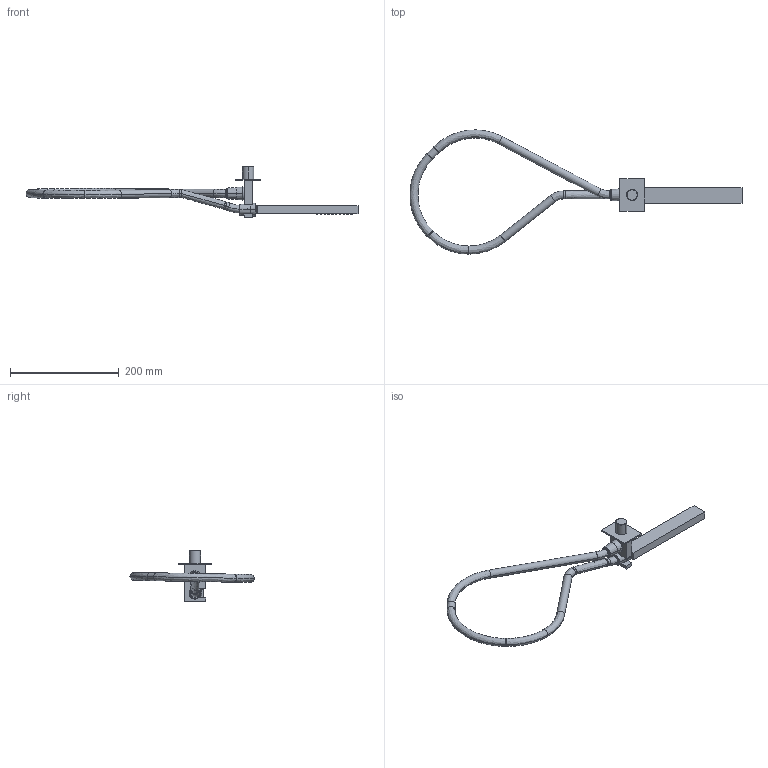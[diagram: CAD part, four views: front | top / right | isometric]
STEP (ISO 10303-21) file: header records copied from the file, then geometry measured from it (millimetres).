
FILE_DESCRIPTION (( 'STEP AP203' ), '1' );
FILE_NAME ('K10.STEP', '2025-06-11T09:07:43', ( '' ), ( '' ), 'SwSTEP 2.0', 'SolidWorks 2024', '' );
FILE_SCHEMA (( 'CONFIG_CONTROL_DESIGN' ));
Length unit declared in the file: millimetre
Products named in the file (4): PRE10; DOC7; FLEX   CL150 1; K10
Assembly tree (3 placements, depth 2):
  K10
    FLEX   CL150 1
    DOC7
    PRE10
Bounding box: 609.35 x 228.08 x 93.5 mm (x, y, z)
Volume: 306596.1 mm3; surface area: 85508 mm2
Topology: 3 solids, 3 shells, 291 faces, 590 edges, 380 vertices
Faces by surface type: plane 104, cylinder 92, cone 69, bspline 22, torus 4
Entity records: 9605 total; most frequent: CARTESIAN_POINT 2846, DIRECTION 1470, ORIENTED_EDGE 1180, AXIS2_PLACEMENT_3D 619, EDGE_CURVE 590, VERTEX_POINT 380, EDGE_LOOP 366, CIRCLE 344
